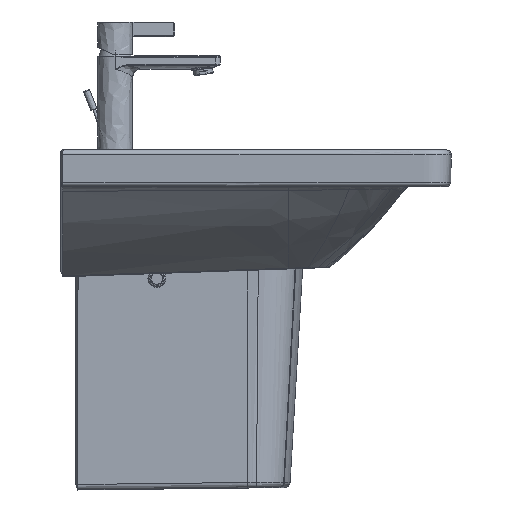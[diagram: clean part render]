
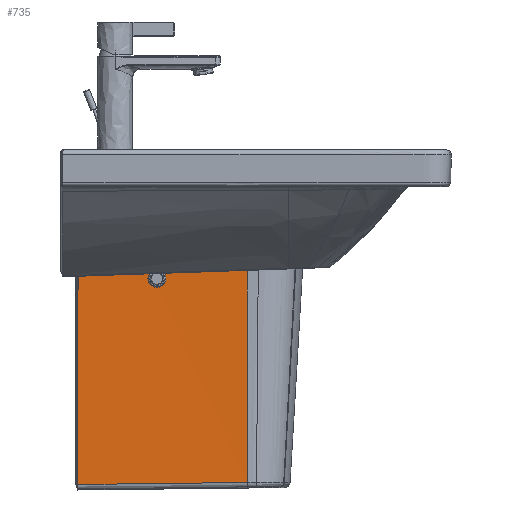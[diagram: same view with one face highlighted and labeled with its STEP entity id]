
A CAD part, left-side view. The second image highlights one B-rep face of the part: STEP entity #735.
In plain terms, the highlighted free-form (B-spline) face has degree [1, 5] with [2, 6] control points.
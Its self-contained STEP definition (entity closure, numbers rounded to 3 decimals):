
#90=FACE_BOUND('',#2120,.T.);
#735=ADVANCED_FACE('',(#1407,#90),#10050,.T.);
#1407=FACE_OUTER_BOUND('',#2119,.T.);
#2119=EDGE_LOOP('',(#5230,#5231,#5232,#5233));
#2120=EDGE_LOOP('',(#5234,#5235));
#5230=ORIENTED_EDGE('',*,*,#6903,.F.);
#5231=ORIENTED_EDGE('',*,*,#6857,.F.);
#5232=ORIENTED_EDGE('',*,*,#6902,.T.);
#5233=ORIENTED_EDGE('',*,*,#6926,.F.);
#5234=ORIENTED_EDGE('',*,*,#6959,.F.);
#5235=ORIENTED_EDGE('',*,*,#6956,.F.);
#6857=EDGE_CURVE('',#9501,#9502,#8469,.T.);
#6902=EDGE_CURVE('',#9501,#9536,#8511,.T.);
#6903=EDGE_CURVE('',#9502,#9537,#8512,.T.);
#6926=EDGE_CURVE('',#9537,#9536,#8535,.T.);
#6956=EDGE_CURVE('',#9539,#9538,#8565,.T.);
#6959=EDGE_CURVE('',#9538,#9539,#8568,.T.);
#8469=B_SPLINE_CURVE_WITH_KNOTS('',1,(#92658,#92659),.UNSPECIFIED.,.F.,
 .F.,(2,2),(0.,208.052),.UNSPECIFIED.);
#8511=B_SPLINE_CURVE_WITH_KNOTS('',5,(#93007,#93008,#93009,#93010,#93011,
#93012,#93013,#93014,#93015),.UNSPECIFIED.,.F.,.F.,(6,3,6),(82.052,
227.204,365.293),.UNSPECIFIED.);
#8512=B_SPLINE_CURVE_WITH_KNOTS('',1,(#93016,#93017),.UNSPECIFIED.,.F.,
 .F.,(2,2),(-290.099,-9.282),.UNSPECIFIED.);
#8535=B_SPLINE_CURVE_WITH_KNOTS('',4,(#93157,#93158,#93159,#93160,#93161),
 .UNSPECIFIED.,.F.,.F.,(5,5),(-104.033,104.033),
 .UNSPECIFIED.);
#8565=B_SPLINE_CURVE_WITH_KNOTS('',3,(#93462,#93463,#93464,#93465,#93466,
#93467,#93468,#93469,#93470,#93471,#93472,#93473,#93474,#93475,#93476,#93477,
#93478,#93479),.UNSPECIFIED.,.F.,.F.,(4,2,2,2,2,2,2,2,4),(-44.437,
-38.896,-33.354,-27.811,-22.264,
-16.676,-11.086,-5.539,0.),.UNSPECIFIED.);
#8568=B_SPLINE_CURVE_WITH_KNOTS('',3,(#93500,#93501,#93502,#93503,#93504,
#93505,#93506,#93507,#93508,#93509,#93510,#93511,#93512,#93513,#93514,#93515,
#93516,#93517),.UNSPECIFIED.,.F.,.F.,(4,2,2,2,2,2,2,2,4),(-44.437,
-38.892,-33.347,-27.782,-22.225,
-16.647,-11.062,-5.529,0.),.UNSPECIFIED.);
#9501=VERTEX_POINT('',#92385);
#9502=VERTEX_POINT('',#92386);
#9536=VERTEX_POINT('',#92420);
#9537=VERTEX_POINT('',#92421);
#9538=VERTEX_POINT('',#92422);
#9539=VERTEX_POINT('',#92423);
#10050=B_SPLINE_SURFACE_WITH_KNOTS('',1,5,((#90431,#90432,#90433,#90434,
#90435,#90436),(#90437,#90438,#90439,#90440,#90441,#90442)),
 .UNSPECIFIED.,.F.,.F.,.F.,(2,2),(6,6),(0.,290.099),(0.,211.052),
 .UNSPECIFIED.);
#90431=CARTESIAN_POINT('',(-76.214,10.657,-335.476));
#90432=CARTESIAN_POINT('',(-76.714,52.865,-335.476));
#90433=CARTESIAN_POINT('',(-77.214,95.072,-335.476));
#90434=CARTESIAN_POINT('',(-77.714,137.28,-335.476));
#90435=CARTESIAN_POINT('',(-78.214,179.487,-335.476));
#90436=CARTESIAN_POINT('',(-78.714,221.695,-335.476));
#90437=CARTESIAN_POINT('',(-83.863,10.567,-45.476));
#90438=CARTESIAN_POINT('',(-84.333,52.775,-45.476));
#90439=CARTESIAN_POINT('',(-84.803,94.982,-45.476));
#90440=CARTESIAN_POINT('',(-85.273,137.19,-45.476));
#90441=CARTESIAN_POINT('',(-85.743,179.398,-45.476));
#90442=CARTESIAN_POINT('',(-86.213,221.606,-45.476));
#92385=CARTESIAN_POINT('',(-86.179,218.606,-45.476));
#92386=CARTESIAN_POINT('',(-83.863,10.567,-45.476));
#92420=CARTESIAN_POINT('',(-78.855,218.693,-328.623));
#92421=CARTESIAN_POINT('',(-76.458,10.654,-326.197));
#92422=CARTESIAN_POINT('',(-84.429,131.695,-75.476));
#92423=CARTESIAN_POINT('',(-84.205,111.695,-75.476));
#92658=CARTESIAN_POINT('',(-86.179,218.606,-45.476));
#92659=CARTESIAN_POINT('',(-83.863,10.567,-45.476));
#93007=CARTESIAN_POINT('',(-86.179,218.606,-45.476));
#93008=CARTESIAN_POINT('',(-85.429,218.615,-74.497));
#93009=CARTESIAN_POINT('',(-84.678,218.624,-103.517));
#93010=CARTESIAN_POINT('',(-83.927,218.633,-132.538));
#93011=CARTESIAN_POINT('',(-82.463,218.65,-189.167));
#93012=CARTESIAN_POINT('',(-80.998,218.667,-245.797));
#93013=CARTESIAN_POINT('',(-80.284,218.676,-273.405));
#93014=CARTESIAN_POINT('',(-79.57,218.684,-301.014));
#93015=CARTESIAN_POINT('',(-78.855,218.693,-328.623));
#93016=CARTESIAN_POINT('',(-83.863,10.567,-45.476));
#93017=CARTESIAN_POINT('',(-76.458,10.654,-326.197));
#93157=CARTESIAN_POINT('',(-76.458,10.654,-326.197));
#93158=CARTESIAN_POINT('',(-77.057,62.664,-326.803));
#93159=CARTESIAN_POINT('',(-77.657,114.674,-327.41));
#93160=CARTESIAN_POINT('',(-78.256,166.683,-328.016));
#93161=CARTESIAN_POINT('',(-78.855,218.693,-328.623));
#93462=CARTESIAN_POINT('',(-84.205,111.695,-75.476));
#93463=CARTESIAN_POINT('',(-84.239,111.695,-74.184));
#93464=CARTESIAN_POINT('',(-84.275,111.947,-72.9));
#93465=CARTESIAN_POINT('',(-84.348,112.914,-70.521));
#93466=CARTESIAN_POINT('',(-84.385,113.629,-69.426));
#93467=CARTESIAN_POINT('',(-84.453,115.429,-67.576));
#93468=CARTESIAN_POINT('',(-84.485,116.514,-66.823));
#93469=CARTESIAN_POINT('',(-84.539,118.915,-65.781));
#93470=CARTESIAN_POINT('',(-84.561,120.224,-65.496));
#93471=CARTESIAN_POINT('',(-84.592,122.89,-65.458));
#93472=CARTESIAN_POINT('',(-84.6,124.222,-65.71));
#93473=CARTESIAN_POINT('',(-84.602,126.684,-66.708));
#93474=CARTESIAN_POINT('',(-84.595,127.815,-67.455));
#93475=CARTESIAN_POINT('',(-84.567,129.704,-69.343));
#93476=CARTESIAN_POINT('',(-84.546,130.445,-70.461));
#93477=CARTESIAN_POINT('',(-84.494,131.442,-72.885));
#93478=CARTESIAN_POINT('',(-84.463,131.695,-74.184));
#93479=CARTESIAN_POINT('',(-84.429,131.695,-75.476));
#93500=CARTESIAN_POINT('',(-84.429,131.695,-75.476));
#93501=CARTESIAN_POINT('',(-84.396,131.695,-76.768));
#93502=CARTESIAN_POINT('',(-84.359,131.442,-78.052));
#93503=CARTESIAN_POINT('',(-84.286,130.475,-80.431));
#93504=CARTESIAN_POINT('',(-84.25,129.76,-81.527));
#93505=CARTESIAN_POINT('',(-84.181,127.957,-83.379));
#93506=CARTESIAN_POINT('',(-84.149,126.871,-84.131));
#93507=CARTESIAN_POINT('',(-84.095,124.477,-85.169));
#93508=CARTESIAN_POINT('',(-84.073,123.17,-85.456));
#93509=CARTESIAN_POINT('',(-84.042,120.5,-85.494));
#93510=CARTESIAN_POINT('',(-84.034,119.167,-85.242));
#93511=CARTESIAN_POINT('',(-84.032,116.704,-84.243));
#93512=CARTESIAN_POINT('',(-84.039,115.572,-83.496));
#93513=CARTESIAN_POINT('',(-84.067,113.684,-81.607));
#93514=CARTESIAN_POINT('',(-84.088,112.944,-80.49));
#93515=CARTESIAN_POINT('',(-84.14,111.948,-78.067));
#93516=CARTESIAN_POINT('',(-84.171,111.695,-76.768));
#93517=CARTESIAN_POINT('',(-84.205,111.695,-75.476));
